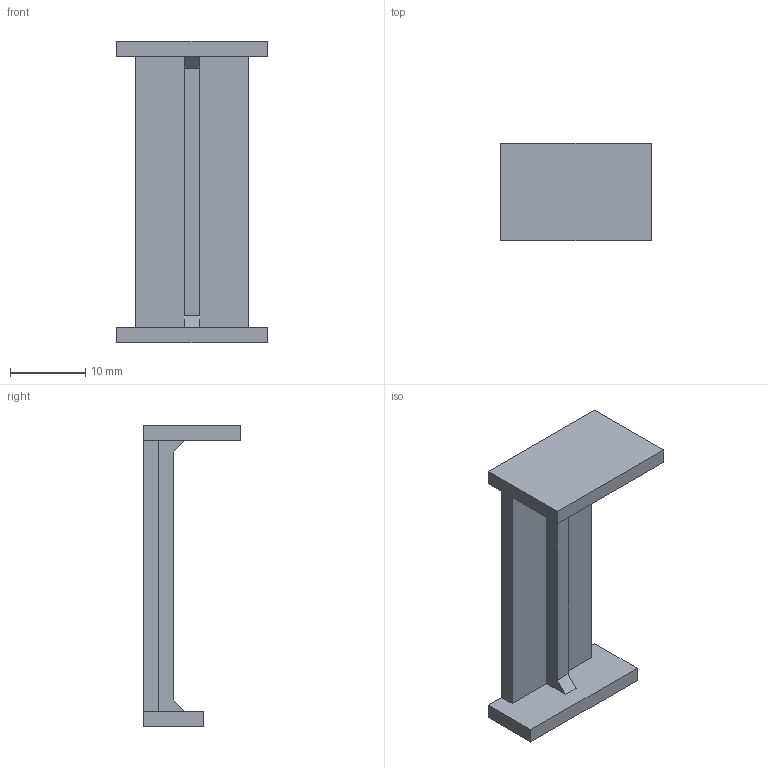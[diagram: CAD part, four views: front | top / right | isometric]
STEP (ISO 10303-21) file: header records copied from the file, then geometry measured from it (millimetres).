
FILE_DESCRIPTION (( 'STEP AP214' ), '1' );
FILE_NAME ('002313.STEP', '2022-02-21T08:10:34', ( '' ), ( '' ), 'SwSTEP 2.0', 'SolidWorks 2021', '' );
FILE_SCHEMA (( 'AUTOMOTIVE_DESIGN' ));
Length unit declared in the file: millimetre
Products named in the file (1): 002313
Bounding box: 20 x 13 x 40 mm (x, y, z)
Volume: 2068.7 mm3; surface area: 2385.1 mm2
Topology: 1 solids, 1 shells, 20 faces, 54 edges, 36 vertices
Faces by surface type: plane 20
Entity records: 652 total; most frequent: CARTESIAN_POINT 111, ORIENTED_EDGE 108, DIRECTION 96, EDGE_CURVE 54, VECTOR 54, LINE 54, VERTEX_POINT 36, AXIS2_PLACEMENT_3D 21
